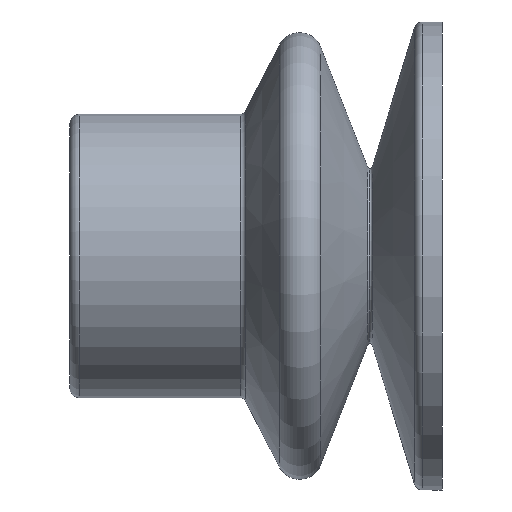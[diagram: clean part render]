
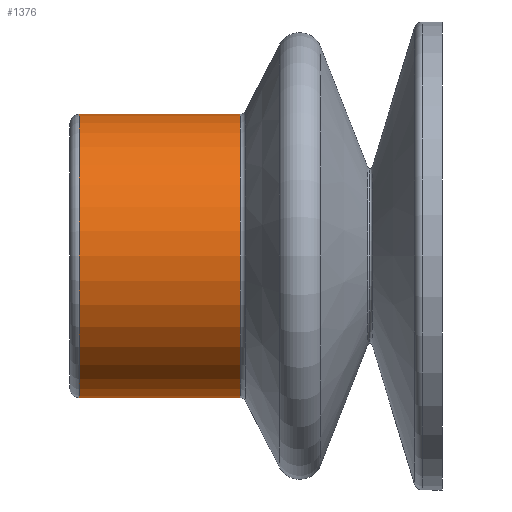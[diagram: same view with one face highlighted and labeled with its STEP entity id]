
A CAD part, left-side view. The second image highlights one B-rep face of the part: STEP entity #1376.
In plain terms, the highlighted cylindrical face has radius 6 mm (diameter 12 mm), a partial arc.
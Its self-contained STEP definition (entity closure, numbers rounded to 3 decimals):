
#27 = CARTESIAN_POINT ( 'NONE',  ( 0., -0.4, 6. ) ) ;
#83 = VERTEX_POINT ( 'NONE', #27 ) ;
#176 = DIRECTION ( 'NONE',  ( 0., 1., 0. ) ) ;
#180 = CARTESIAN_POINT ( 'NONE',  ( 0., -7.21, 6. ) ) ;
#202 = AXIS2_PLACEMENT_3D ( 'NONE', #1072, #1375, #1681 ) ;
#219 = CARTESIAN_POINT ( 'NONE',  ( 0., 0., 0. ) ) ;
#269 = EDGE_CURVE ( 'NONE', #374, #715, #1319, .T. ) ;
#352 = AXIS2_PLACEMENT_3D ( 'NONE', #219, #360, #856 ) ;
#360 = DIRECTION ( 'NONE',  ( 0., 1., 0. ) ) ;
#371 = CARTESIAN_POINT ( 'NONE',  ( 0., -7.21, -6. ) ) ;
#374 = VERTEX_POINT ( 'NONE', #371 ) ;
#381 = VECTOR ( 'NONE', #176, 1000. ) ;
#398 = VERTEX_POINT ( 'NONE', #861 ) ;
#466 = VECTOR ( 'NONE', #510, 1000. ) ;
#510 = DIRECTION ( 'NONE',  ( 0., 1., 0. ) ) ;
#547 = ORIENTED_EDGE ( 'NONE', *, *, #1662, .F. ) ;
#625 = ORIENTED_EDGE ( 'NONE', *, *, #765, .T. ) ;
#715 = VERTEX_POINT ( 'NONE', #180 ) ;
#765 = EDGE_CURVE ( 'NONE', #715, #83, #1632, .T. ) ;
#856 = DIRECTION ( 'NONE',  ( 0., 0., 1. ) ) ;
#861 = CARTESIAN_POINT ( 'NONE',  ( 0., -0.4, -6. ) ) ;
#883 = CIRCLE ( 'NONE', #202, 6. ) ;
#999 = EDGE_CURVE ( 'NONE', #398, #83, #883, .T. ) ;
#1015 = CARTESIAN_POINT ( 'NONE',  ( 0., -7.21, 0. ) ) ;
#1072 = CARTESIAN_POINT ( 'NONE',  ( 0., -0.4, 0. ) ) ;
#1073 = LINE ( 'NONE', #1554, #381 ) ;
#1159 = DIRECTION ( 'NONE',  ( 0., 1., 0. ) ) ;
#1319 = CIRCLE ( 'NONE', #1737, 6. ) ;
#1337 = DIRECTION ( 'NONE',  ( 0., 0., 1. ) ) ;
#1375 = DIRECTION ( 'NONE',  ( 0., 1., 0. ) ) ;
#1376 = ADVANCED_FACE ( 'NONE', ( #1861 ), #1839, .T. ) ;
#1401 = EDGE_LOOP ( 'NONE', ( #547, #1421, #625, #1847 ) ) ;
#1421 = ORIENTED_EDGE ( 'NONE', *, *, #269, .T. ) ;
#1471 = CARTESIAN_POINT ( 'NONE',  ( 0., 0., 6. ) ) ;
#1554 = CARTESIAN_POINT ( 'NONE',  ( 0., 0., -6. ) ) ;
#1632 = LINE ( 'NONE', #1471, #466 ) ;
#1662 = EDGE_CURVE ( 'NONE', #374, #398, #1073, .T. ) ;
#1681 = DIRECTION ( 'NONE',  ( 0., 0., 1. ) ) ;
#1737 = AXIS2_PLACEMENT_3D ( 'NONE', #1015, #1159, #1337 ) ;
#1839 = CYLINDRICAL_SURFACE ( 'NONE', #352, 6. ) ;
#1847 = ORIENTED_EDGE ( 'NONE', *, *, #999, .F. ) ;
#1861 = FACE_OUTER_BOUND ( 'NONE', #1401, .T. ) ;
